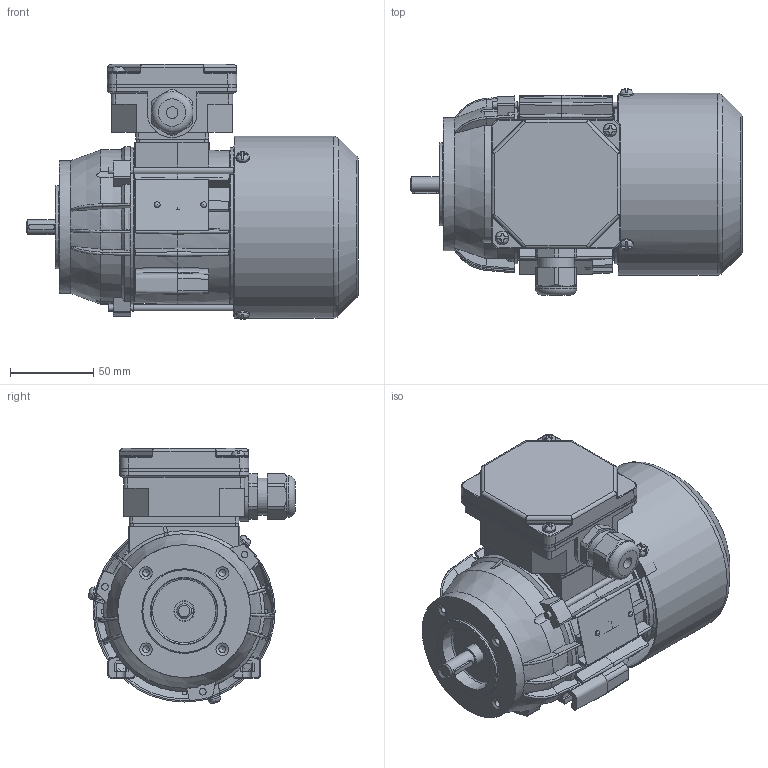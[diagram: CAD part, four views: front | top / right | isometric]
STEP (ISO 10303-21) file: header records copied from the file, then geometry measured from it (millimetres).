
FILE_DESCRIPTION( ( 'Unknown' ), '1' );
FILE_NAME( 'G:/Poczta Tk-1/STP/w.m.56/Sh56/SKh56-C2.stp', 'Unknown', ( 'K. Szlosek' ), ( 'BESEL S.A.' ), 'PSStep 17.0.49', 'Unknown', ' ' );
FILE_SCHEMA( ( 'AUTOMOTIVE_DESIGN { 1 0 10303 214 1 1 1 1 }' ) );
Length unit declared in the file: millimetre
Products named in the file (28): Assem1; K4-2320 Uszczelka nr 1 Sh71,80; K3-2193 Tarcza łożyskowa P Sg56-2..; K2-0860 Pokrywka skrzynki zaciskowej; Wpust A3x3x16; K3-2977 Osłona przewietrznika Sg56; K4-2820 Uszczelka nr 2 Sh71,80; Wkręt samogwintujący M4x8; Wkręt samogwintujący M4x16; K2-0879 Przewietrznik Sg56; Nitokołek A 2x6; K3-9987 kadłub ze stojanem Sh56-C; K3-9990 wał Sh56-C; K1-0533 Tarcza kołnierzowa B14_2 SKg56-..2; K2-0859 Podstawa skrzynki 6-cio zaciskowej; Śruba ściągająca E_M4x85; Tabliczka znamionowa 32x44; Łożysko 6201; Dławnica M20x1,5
Assembly tree (43 placements, depth 2):
  Assem1
    K4-2320 Uszczelka nr 1 Sh71,80
    K3-2193 Tarcza łożyskowa P Sg56-2..
    K2-0860 Pokrywka skrzynki zaciskowej
    Wpust A3x3x16
    K3-2977 Osłona przewietrznika Sg56
    K4-2820 Uszczelka nr 2 Sh71,80
    Wkręt samogwintujący M4x8  x3
    Wkręt samogwintujący M4x16  x2
    K2-0879 Przewietrznik Sg56
    Nitokołek A 2x6  x2
    K3-9987 kadłub ze stojanem Sh56-C
    K3-9990 wał Sh56-C
    K1-0533 Tarcza kołnierzowa B14_2 SKg56-..2
    K2-0859 Podstawa skrzynki 6-cio zaciskowej
    Śruba ściągająca E_M4x85  x3
    Tabliczka znamionowa 32x44
    Łożysko 6201  x2
    Łożysko 6201  x2
    Łożysko 6201  x2
    Łożysko 6201  x2
    Łożysko 6201  x2
    Łożysko 6201  x2
    Łożysko 6201  x2
    Łożysko 6201  x2
    Łożysko 6201  x2
    Łożysko 6201  x2
    Dławnica M20x1,5
Bounding box: 200 x 124.54 x 153.72 mm (x, y, z)
Volume: 398535.8 mm3; surface area: 300174.2 mm2
Topology: 43 solids, 59 shells, 1768 faces, 4786 edges, 3092 vertices
Faces by surface type: plane 916, cylinder 498, cone 132, torus 96, bspline 92, sphere 34
Full cylindrical faces by diameter (mm): 2 x2, 2.4 x2, 3.242 x3, 3.7 x10, 4 x8, 4.134 x4, 4.5 x4, 4.8 x4, 5 x4, 7 x4, 8 x6, 9 x1, 10.9 x1, 11 x1, 11.5 x1, 11.8 x2, 12 x4, 12.4 x2, 15.5 x1, 16 x1, 16.1 x1, 17 x2, 18.376 x1, 18.38 x1, 18.52 x4, 20 x1, 22.3 x1, 24 x2, 25 x1, 25.48 x4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
Entity records: 72962 total; most frequent: CARTESIAN_POINT 20044, ORIENTED_EDGE 8216, DIRECTION 8122, EDGE_CURVE 4108, AXIS2_PLACEMENT_3D 3031, VERTEX_POINT 2788, LINE 2060, VECTOR 2060
